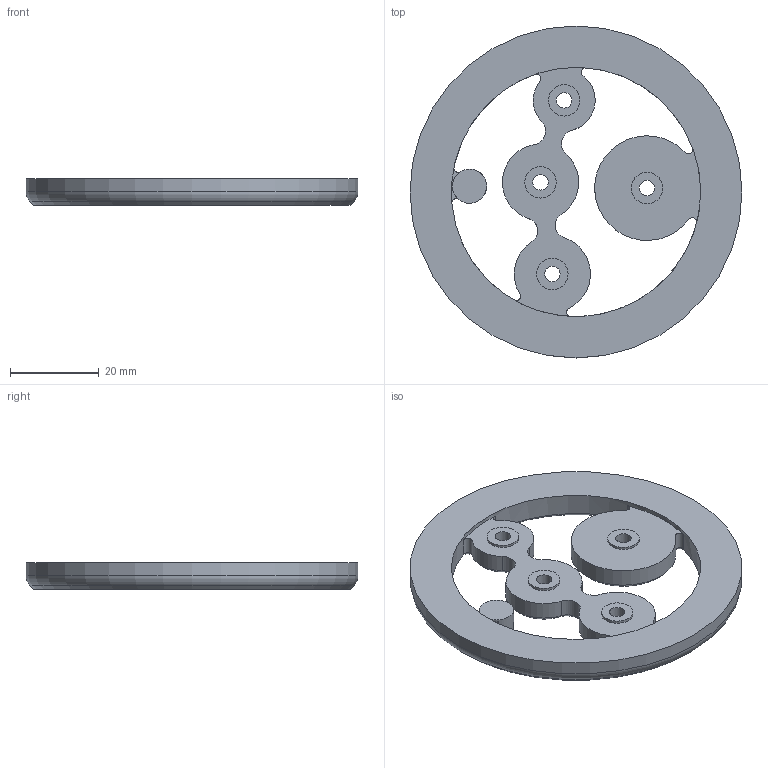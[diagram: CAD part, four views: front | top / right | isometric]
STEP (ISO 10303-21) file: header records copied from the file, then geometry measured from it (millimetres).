
FILE_DESCRIPTION(/* description */ ('STEP AP242','CAx-IF Rec.Pracs.---Representation and Presentation of Product Manufacturing Information (PMI)---4.0---2014-10-13','CAx-IF Rec.Pracs.---3D Tessellated Geometry---0.4---2014-09-14','2;1'),/* implementation_level */ '2;1');
FILE_NAME(/* name */ '647941967897e338d11cf492',/* time_stamp */ '2023-06-02T01:10:46Z',/* author */ (''),/* organization */ (''),/* preprocessor_version */ 'ST-DEVELOPER v19.4',/* originating_system */ ' ',/* authorisation */ ' ');
FILE_SCHEMA (('AP242_MANAGED_MODEL_BASED_3D_ENGINEERING_MIM_LF { 1 0 10303 442 1 1 4 }'));
Length unit declared in the file: metre
Products named in the file (1): Spin Ring V1.71
Bounding box: 74.9 x 74.9 x 6 mm (x, y, z)
Volume: 16539.9 mm3; surface area: 9271 mm2
Topology: 1 solids, 1 shells, 81 faces, 196 edges, 121 vertices
Faces by surface type: cylinder 35, cone 30, plane 11, torus 5
Full cylindrical faces by diameter (mm): 2.85 x1, 3.5 x4, 7.1 x8, 7.7 x1, 56.264 x1, 74.9 x1
Entity records: 2190 total; most frequent: DIRECTION 430, CARTESIAN_POINT 348, ORIENTED_EDGE 314, AXIS2_PLACEMENT_3D 191, EDGE_CURVE 157, EDGE_LOOP 124, FACE_BOUND 124, VERTEX_POINT 109
